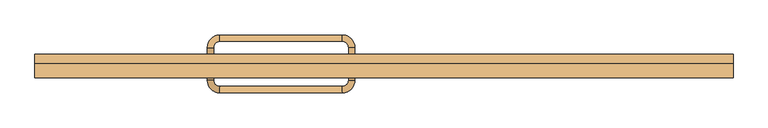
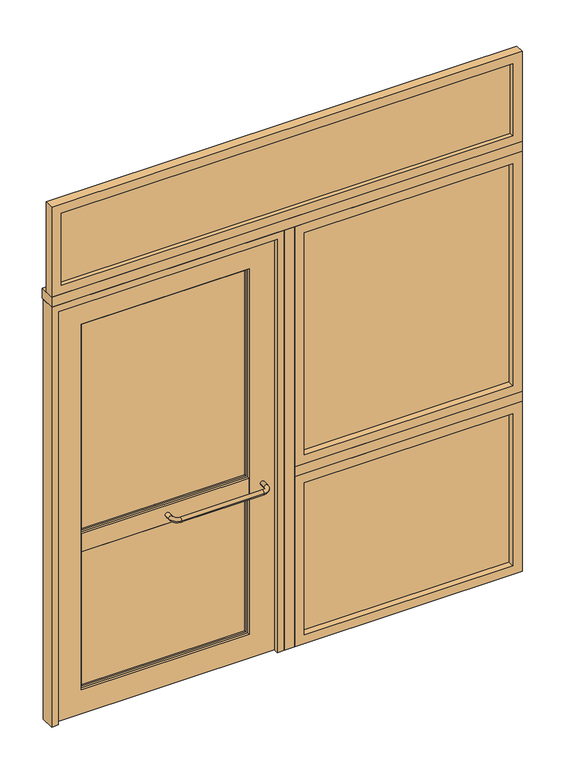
"""IFC4 building model written with IfcOpenShell, lengths in millimetres: door geometry, A2 Puerta batiente exterior con panel lateral VF superior : A2.2 Puerta batiente exterior con panel lateral 223x260."""

from ifc_helpers import new_model, si_unit, point, frame, origin, origin_with_axes, place, context, project, spatial, polyline, circle_curve, ellipse_curve, trimmed, outline, extrude, source, transform, mapped, element, save
from ifc_brep_helpers import plane_surface, cylinder_surface, revolved_surface, advanced_brep


def door_238ea07a(model_context):
    return source(origin(), model_context, "Body", "SolidModel", [
        advanced_brep(
        [(-113.0, 28.5, 855.0), (-93.0, 28.5, 855.0), (-93.0, 58.5, 855.0), (-113.0, 58.5, 855.0), (-133.0, 78.5, 855.0), (-133.0, 98.5, 855.0), (-523.0, 98.5, 855.0), (-523.0, 78.5, 855.0), (-543.0, 58.5, 855.0), (-563.0, 58.5, 855.0), (-543.0, 28.5, 855.0), (-563.0, 28.5, 855.0)],
        [
            (0, 1, circle_curve(frame((-103.0, 28.5, 855.0), z_axis=(0.0, -1.0, 0.0), x_axis=(1.0, 0.0, 0.0)), 10.0)),
            (1, 0, circle_curve(frame((-103.0, 28.5, 855.0), z_axis=(0.0, -1.0, 0.0), x_axis=(1.0, 0.0, 0.0)), 10.0)),
            (1, 2),
            (2, 3, circle_curve(frame((-103.0, 58.5, 855.0), z_axis=(0.0, -1.0, 0.0), x_axis=(1.0, 0.0, 0.0)), 10.0)),
            (3, 0),
            (3, 2, circle_curve(frame((-103.0, 58.5, 855.0), z_axis=(0.0, -1.0, 0.0), x_axis=(1.0, 0.0, 0.0)), 10.0)),
            (4, 3, circle_curve(frame((-133.0, 58.5, 855.0), z_axis=(0.0, 0.0, -1.0), x_axis=(1.0, 0.0, 0.0)), 20.0)),
            (2, 5, circle_curve(frame((-133.0, 58.5, 855.0), z_axis=(0.0, 0.0, 1.0), x_axis=(1.0, 0.0, 0.0)), 40.0)),
            (5, 4, circle_curve(frame((-133.0, 88.5, 855.0), z_axis=(1.0, 0.0, 0.0), x_axis=(0.0, 1.0, 0.0)), 10.0)),
            (4, 5, circle_curve(frame((-133.0, 88.5, 855.0), z_axis=(1.0, 0.0, 0.0), x_axis=(0.0, 1.0, 0.0)), 10.0)),
            (5, 6),
            (6, 7, circle_curve(frame((-523.0, 88.5, 855.0), z_axis=(1.0, 0.0, 0.0), x_axis=(0.0, 1.0, 0.0)), 10.0)),
            (7, 4),
            (7, 6, circle_curve(frame((-523.0, 88.5, 855.0), z_axis=(1.0, 0.0, 0.0), x_axis=(0.0, 1.0, 0.0)), 10.0)),
            (8, 7, circle_curve(frame((-523.0, 58.5, 855.0), z_axis=(0.0, 0.0, -1.0), x_axis=(0.0, 1.0, 0.0)), 20.0)),
            (6, 9, circle_curve(frame((-523.0, 58.5, 855.0), z_axis=(0.0, 0.0, 1.0), x_axis=(0.0, 1.0, 0.0)), 40.0)),
            (9, 8, circle_curve(frame((-553.0, 58.5, 855.0), z_axis=(0.0, 1.0, 0.0), x_axis=(-1.0, 0.0, 0.0)), 10.0)),
            (8, 9, circle_curve(frame((-553.0, 58.5, 855.0), z_axis=(0.0, 1.0, 0.0), x_axis=(-1.0, 0.0, 0.0)), 10.0)),
            (10, 11, circle_curve(frame((-553.0, 28.5, 855.0), z_axis=(0.0, -1.0, 0.0), x_axis=(-1.0, 0.0, 0.0)), 10.0)),
            (11, 10, circle_curve(frame((-553.0, 28.5, 855.0), z_axis=(0.0, -1.0, 0.0), x_axis=(-1.0, 0.0, 0.0)), 10.0)),
            (9, 11),
            (10, 8),
        ],
        [
            plane_surface(frame((-103.0, 28.5, 855.0), z_axis=(0.0, -1.0, 0.0), x_axis=(0.0, 0.0, 1.0))),
            cylinder_surface(frame((-103.0, 28.5, 855.0), z_axis=(0.0, -1.0, 0.0), x_axis=(1.0, 0.0, 0.0)), 10.0),
            revolved_surface(trimmed(ellipse_curve(frame((-103.0, 58.5, 855.0), z_axis=(0.0, -1.0, 0.0), x_axis=(1.0, 0.0, 0.0)), 10.0, 10.0), [point((-93.0, 58.5, 855.0))], [point((-113.0, 58.5, 855.0))], True, "CARTESIAN"), (-133.0, 58.5, 855.0), (0.0, 0.0, 1.0)),
            revolved_surface(trimmed(ellipse_curve(frame((-103.0, 58.5, 855.0), z_axis=(0.0, -1.0, 0.0), x_axis=(1.0, 0.0, 0.0)), 10.0, 10.0), [point((-113.0, 58.5, 855.0))], [point((-93.0, 58.5, 855.0))], True, "CARTESIAN"), (-133.0, 58.5, 855.0), (0.0, 0.0, 1.0)),
            cylinder_surface(frame((-133.0, 88.5, 855.0), z_axis=(1.0, 0.0, 0.0), x_axis=(0.0, 1.0, 0.0)), 10.0),
            revolved_surface(trimmed(ellipse_curve(frame((-523.0, 88.5, 855.0), z_axis=(1.0, 0.0, 0.0), x_axis=(0.0, 1.0, 0.0)), 10.0, 10.0), [point((-523.0, 98.5, 855.0))], [point((-523.0, 78.5, 855.0))], True, "CARTESIAN"), (-523.0, 58.5, 855.0), (0.0, 0.0, 1.0)),
            revolved_surface(trimmed(ellipse_curve(frame((-523.0, 88.5, 855.0), z_axis=(1.0, 0.0, 0.0), x_axis=(0.0, 1.0, 0.0)), 10.0, 10.0), [point((-523.0, 78.5, 855.0))], [point((-523.0, 98.5, 855.0))], True, "CARTESIAN"), (-523.0, 58.5, 855.0), (0.0, 0.0, 1.0)),
            plane_surface(frame((-553.0, 28.5, 855.0), z_axis=(0.0, -1.0, 0.0), x_axis=(0.0, 0.0, 1.0))),
            cylinder_surface(frame((-553.0, 58.5, 855.0), z_axis=(0.0, 1.0, 0.0), x_axis=(-1.0, 0.0, 0.0)), 10.0),
        ],
        [
            (0, [[1, 2]]),
            (1, [[-2, 3, 4, 5]]),
            (1, [[-1, -5, 6, -3]]),
            (2, [[7, -4, 8, 9]]),
            (3, [[-8, -6, -7, 10]]),
            (4, [[-9, 11, 12, 13]]),
            (4, [[-10, -13, 14, -11]]),
            (5, [[15, -12, 16, 17]]),
            (6, [[-16, -14, -15, 18]]),
            (7, [[19, 20]]),
            (8, [[-17, 21, -19, 22]]),
            (8, [[-18, -22, -20, -21]]),
        ],
    ),
        advanced_brep(
        [(-113.0, -15.5, 855.0), (-93.0, -15.5, 855.0), (-113.0, -45.5, 855.0), (-93.0, -45.5, 855.0), (-133.0, -65.5, 855.0), (-133.0, -85.5, 855.0), (-523.0, -65.5, 855.0), (-523.0, -85.5, 855.0), (-543.0, -45.5, 855.0), (-563.0, -45.5, 855.0), (-543.0, -15.5, 855.0), (-563.0, -15.5, 855.0)],
        [
            (0, 1, circle_curve(frame((-103.0, -15.5, 855.0), z_axis=(0.0, 1.0, 0.0), x_axis=(1.0, 0.0, 0.0)), 10.0)),
            (1, 0, circle_curve(frame((-103.0, -15.5, 855.0), z_axis=(0.0, 1.0, 0.0), x_axis=(1.0, 0.0, 0.0)), 10.0)),
            (0, 2),
            (2, 3, circle_curve(frame((-103.0, -45.5, 855.0), z_axis=(0.0, 1.0, 0.0), x_axis=(1.0, 0.0, 0.0)), 10.0)),
            (3, 1),
            (3, 2, circle_curve(frame((-103.0, -45.5, 855.0), z_axis=(0.0, 1.0, 0.0), x_axis=(1.0, 0.0, 0.0)), 10.0)),
            (4, 5, circle_curve(frame((-133.0, -75.5, 855.0), z_axis=(1.0, 0.0, 0.0), x_axis=(0.0, -1.0, 0.0)), 10.0)),
            (5, 3, circle_curve(frame((-133.0, -45.5, 855.0), z_axis=(0.0, 0.0, 1.0), x_axis=(1.0, 0.0, 0.0)), 40.0)),
            (2, 4, circle_curve(frame((-133.0, -45.5, 855.0), z_axis=(0.0, 0.0, -1.0), x_axis=(1.0, 0.0, 0.0)), 20.0)),
            (5, 4, circle_curve(frame((-133.0, -75.5, 855.0), z_axis=(1.0, 0.0, 0.0), x_axis=(0.0, -1.0, 0.0)), 10.0)),
            (4, 6),
            (6, 7, circle_curve(frame((-523.0, -75.5, 855.0), z_axis=(1.0, 0.0, 0.0), x_axis=(0.0, -1.0, 0.0)), 10.0)),
            (7, 5),
            (7, 6, circle_curve(frame((-523.0, -75.5, 855.0), z_axis=(1.0, 0.0, 0.0), x_axis=(0.0, -1.0, 0.0)), 10.0)),
            (8, 9, circle_curve(frame((-553.0, -45.5, 855.0), z_axis=(0.0, -1.0, 0.0), x_axis=(-1.0, 0.0, 0.0)), 10.0)),
            (9, 7, circle_curve(frame((-523.0, -45.5, 855.0), z_axis=(0.0, 0.0, 1.0), x_axis=(0.0, -1.0, 0.0)), 40.0)),
            (6, 8, circle_curve(frame((-523.0, -45.5, 855.0), z_axis=(0.0, 0.0, -1.0), x_axis=(0.0, -1.0, 0.0)), 20.0)),
            (9, 8, circle_curve(frame((-553.0, -45.5, 855.0), z_axis=(0.0, -1.0, 0.0), x_axis=(-1.0, 0.0, 0.0)), 10.0)),
            (10, 11, circle_curve(frame((-553.0, -15.5, 855.0), z_axis=(0.0, 1.0, 0.0), x_axis=(-1.0, 0.0, 0.0)), 10.0)),
            (11, 10, circle_curve(frame((-553.0, -15.5, 855.0), z_axis=(0.0, 1.0, 0.0), x_axis=(-1.0, 0.0, 0.0)), 10.0)),
            (8, 10),
            (11, 9),
        ],
        [
            plane_surface(frame((-103.0, -15.5, 855.0), z_axis=(0.0, 1.0, 0.0), x_axis=(0.0, 0.0, 1.0))),
            cylinder_surface(frame((-103.0, -15.5, 855.0), z_axis=(0.0, 1.0, 0.0), x_axis=(1.0, 0.0, 0.0)), 10.0),
            revolved_surface(trimmed(ellipse_curve(frame((-103.0, -45.5, 855.0), z_axis=(0.0, -1.0, 0.0), x_axis=(1.0, 0.0, 0.0)), 10.0, 10.0), [point((-93.0, -45.5, 855.0))], [point((-113.0, -45.5, 855.0))], True, "CARTESIAN"), (-133.0, -45.5, 855.0), (0.0, 0.0, 1.0)),
            revolved_surface(trimmed(ellipse_curve(frame((-103.0, -45.5, 855.0), z_axis=(0.0, -1.0, 0.0), x_axis=(1.0, 0.0, 0.0)), 10.0, 10.0), [point((-113.0, -45.5, 855.0))], [point((-93.0, -45.5, 855.0))], True, "CARTESIAN"), (-133.0, -45.5, 855.0), (0.0, 0.0, 1.0)),
            cylinder_surface(frame((-133.0, -75.5, 855.0), z_axis=(1.0, 0.0, 0.0), x_axis=(0.0, -1.0, 0.0)), 10.0),
            revolved_surface(trimmed(ellipse_curve(frame((-523.0, -75.5, 855.0), z_axis=(-1.0, 0.0, 0.0), x_axis=(0.0, -1.0, 0.0)), 10.0, 10.0), [point((-523.0, -85.5, 855.0))], [point((-523.0, -65.5, 855.0))], True, "CARTESIAN"), (-523.0, -45.5, 855.0), (0.0, 0.0, 1.0)),
            revolved_surface(trimmed(ellipse_curve(frame((-523.0, -75.5, 855.0), z_axis=(-1.0, 0.0, 0.0), x_axis=(0.0, -1.0, 0.0)), 10.0, 10.0), [point((-523.0, -65.5, 855.0))], [point((-523.0, -85.5, 855.0))], True, "CARTESIAN"), (-523.0, -45.5, 855.0), (0.0, 0.0, 1.0)),
            plane_surface(frame((-553.0, -15.5, 855.0), z_axis=(0.0, 1.0, 0.0), x_axis=(0.0, 0.0, 1.0))),
            cylinder_surface(frame((-553.0, -45.5, 855.0), z_axis=(0.0, -1.0, 0.0), x_axis=(-1.0, 0.0, 0.0)), 10.0),
        ],
        [
            (0, [[1, 2]]),
            (1, [[3, 4, 5, -1]]),
            (1, [[-5, 6, -3, -2]]),
            (2, [[7, 8, -4, 9]]),
            (3, [[10, -9, -6, -8]]),
            (4, [[11, 12, 13, -7]]),
            (4, [[-13, 14, -11, -10]]),
            (5, [[15, 16, -12, 17]]),
            (6, [[18, -17, -14, -16]]),
            (7, [[19, 20]]),
            (8, [[21, -20, 22, -15]]),
            (8, [[-22, -19, -21, -18]]),
        ],
    ),
        extrude(outline(polyline([(1067.5, -7.9019238), (82.5, -7.9019238), (82.5, -1.9019238), (1067.5, -1.9019238), (1067.5, -7.9019238)])), frame((0.0, 0.0, 45.0), z_axis=(0.0, 0.0, 1.0), x_axis=(1.0, 0.0, 0.0)), (0.0, 0.0, 1.0), 760.0),
        extrude(outline(polyline([(1067.5, -7.9019238), (82.5, -7.9019238), (82.5, -1.9019238), (1067.5, -1.9019238), (1067.5, -7.9019238)])), frame((0.0, 0.0, 945.0), z_axis=(0.0, 0.0, 1.0), x_axis=(1.0, 0.0, 0.0)), (0.0, 0.0, 1.0), 1110.0),
        extrude(outline(polyline([(850.0, 37.5), (0.0, 37.5), (0.0, 1112.5), (850.0, 1112.5), (850.0, 37.5)]), holes=[polyline([(805.0, 82.5), (805.0, 1067.5), (45.0, 1067.5), (45.0, 82.5), (805.0, 82.5)])]), frame((0.0, -37.5, 0.0), z_axis=(0.0, 1.0, 0.0), x_axis=(0.0, 0.0, 1.0)), (0.0, 0.0, 1.0), 66.0),
        extrude(outline(polyline([(2100.0, 37.5), (900.0, 37.5), (900.0, 1112.5), (2100.0, 1112.5), (2100.0, 37.5)]), holes=[polyline([(2055.0, 82.5), (2055.0, 1067.5), (945.0, 1067.5), (945.0, 82.5), (2055.0, 82.5)])]), frame((0.0, -37.5, 0.0), z_axis=(0.0, 1.0, 0.0), x_axis=(0.0, 0.0, 1.0)), (0.0, 0.0, 1.0), 66.0),
        extrude(outline(polyline([(1112.5, -37.5), (37.5, -37.5), (37.5, 37.5), (1112.5, 37.5), (1112.5, -37.5)])), frame((0.0, 0.0, 850.0), z_axis=(0.0, 0.0, 1.0), x_axis=(1.0, 0.0, 0.0)), (0.0, 0.0, 1.0), 50.0),
        extrude(outline(polyline([(37.5, -37.5), (-12.5, -37.5), (-12.5, 37.5), (37.5, 37.5), (37.5, -37.5)])), origin_with_axes(), (0.0, 0.0, 1.0), 2100.0),
        extrude(outline(polyline([(1067.5, -18.5), (-1067.5, -18.5), (-1067.5, -12.5), (1067.5, -12.5), (1067.5, -18.5)])), frame((0.0, 0.0, 2195.0), z_axis=(0.0, 0.0, 1.0), x_axis=(1.0, 0.0, 0.0)), (0.0, 0.0, 1.0), 360.0),
        extrude(outline(polyline([(2600.0, -1112.5), (2150.0, -1112.5), (2150.0, 1112.5), (2600.0, 1112.5), (2600.0, -1112.5)]), holes=[polyline([(2555.0, -1067.5), (2555.0, 1067.5), (2195.0, 1067.5), (2195.0, -1067.5), (2555.0, -1067.5)])]), frame((0.0, -37.5, 0.0), z_axis=(0.0, 1.0, 0.0), x_axis=(0.0, 0.0, 1.0)), (0.0, 0.0, 1.0), 44.0),
        extrude(outline(polyline([(-175.5, 3.5), (-949.5, 3.5), (-949.5, 9.5), (-175.5, 9.5), (-175.5, 3.5)])), frame((0.0, 0.0, 910.0), z_axis=(0.0, 0.0, 1.0), x_axis=(1.0, 0.0, 0.0)), (0.0, 0.0, 1.0), 1027.0),
        extrude(outline(polyline([(-175.5, 3.5), (-949.5, 3.5), (-949.5, 9.5), (-175.5, 9.5), (-175.5, 3.5)])), frame((0.0, 0.0, 130.0), z_axis=(0.0, 0.0, 1.0), x_axis=(1.0, 0.0, 0.0)), (0.0, 0.0, 1.0), 670.0),
        extrude(outline(polyline([(1947.0, -959.5), (900.0, -959.5), (900.0, -165.5), (1947.0, -165.5), (1947.0, -959.5)]), holes=[polyline([(1937.0, -949.5), (1937.0, -175.5), (910.0, -175.5), (910.0, -949.5), (1937.0, -949.5)])]), frame((0.0, -3.5, 0.0), z_axis=(0.0, 1.0, 0.0), x_axis=(0.0, 0.0, 1.0)), (0.0, 0.0, 1.0), 20.0),
        extrude(outline(polyline([(810.0, -959.5), (120.0, -959.5), (120.0, -165.5), (810.0, -165.5), (810.0, -959.5)]), holes=[polyline([(800.0, -949.5), (800.0, -175.5), (130.0, -175.5), (130.0, -949.5), (800.0, -949.5)])]), frame((0.0, -3.5, 0.0), z_axis=(0.0, 1.0, 0.0), x_axis=(0.0, 0.0, 1.0)), (0.0, 0.0, 1.0), 20.0),
        extrude(outline(polyline([(-165.5, -15.5), (-959.5, -15.5), (-959.5, 28.5), (-165.5, 28.5), (-165.5, -15.5)])), frame((0.0, 0.0, 810.0), z_axis=(0.0, 0.0, 1.0), x_axis=(1.0, 0.0, 0.0)), (0.0, 0.0, 1.0), 90.0),
        extrude(outline(polyline([(2067.0, -1079.5), (0.0, -1079.5), (0.0, -45.5), (2067.0, -45.5), (2067.0, -1079.5)]), holes=[polyline([(1947.0, -959.5), (1947.0, -165.5), (120.0, -165.5), (120.0, -959.5), (1947.0, -959.5)])]), frame((0.0, -15.5, 0.0), z_axis=(0.0, 1.0, 0.0), x_axis=(0.0, 0.0, 1.0)), (0.0, 0.0, 1.0), 44.0),
        extrude(outline(polyline([(2100.0, -12.5), (2100.0, -1112.5), (0.0, -1112.5), (0.0, -1079.5), (2067.0, -1079.5), (2067.0, -45.5), (0.0, -45.5), (0.0, -12.5), (2100.0, -12.5)])), frame((0.0, -37.5, 0.0), z_axis=(0.0, 1.0, 0.0), x_axis=(0.0, 0.0, 1.0)), (0.0, 0.0, 1.0), 66.0),
        extrude(outline(polyline([(1112.5, -37.5), (-1112.5, -37.5), (-1112.5, 37.5), (1112.5, 37.5), (1112.5, -37.5)])), frame((0.0, 0.0, 2100.0), z_axis=(0.0, 0.0, 1.0), x_axis=(1.0, 0.0, 0.0)), (0.0, 0.0, 1.0), 50.0),
    ])


if __name__ == "__main__":
    model = new_model("IFC4")
    model_context = context("Model", 3, world=origin())
    ifc_project = project(units=[si_unit("LENGTHUNIT", "METRE", prefix="MILLI")], contexts=[model_context])
    site = spatial("IfcSite", under=ifc_project)
    building = spatial("IfcBuilding", under=site)
    placement = place(None, origin())
    door_shape = door_238ea07a(model_context)
    element("IfcDoor", 1, ObjectType="A2 Puerta batiente exterior con panel lateral VF superior : A2.2 Puerta batiente exterior con panel lateral 223x260", at=placement, inside=building, context=model_context, shape_type="MappedRepresentation", body=[
        mapped(door_shape, transform((0.0, 0.0, 0.0), x_axis=(1.0, 0.0, 0.0), y_axis=(0.0, 1.0, 0.0), z_axis=(0.0, 0.0, 1.0))),
    ])
    save(model, "model.ifc")
